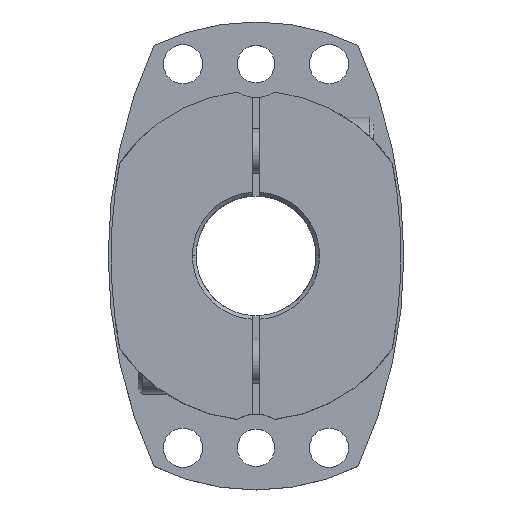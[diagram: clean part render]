
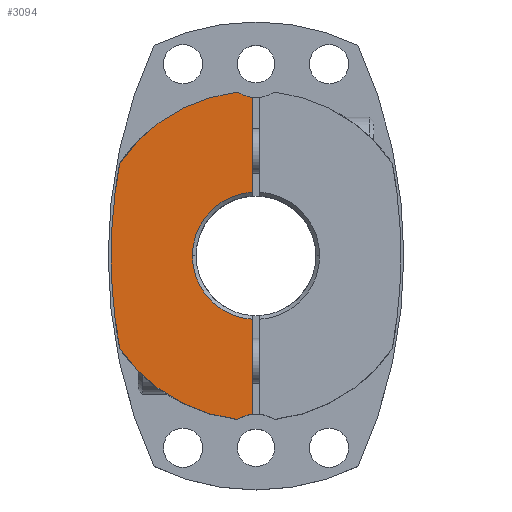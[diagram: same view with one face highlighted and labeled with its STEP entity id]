
A CAD part, top view. The second image highlights one B-rep face of the part: STEP entity #3094.
In plain terms, the highlighted planar face has unit normal (0, 0, 1).
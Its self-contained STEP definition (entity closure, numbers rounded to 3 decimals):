
#412=CARTESIAN_POINT('',(-17.,0.,36.0));
#413=VERTEX_POINT('',#412);
#421=CARTESIAN_POINT('',(-1.,16.971,36.0));
#422=VERTEX_POINT('',#421);
#436=CARTESIAN_POINT('',(0.,0.,36.0));
#437=DIRECTION('',(0.0,0.0,1.0));
#438=DIRECTION('',(-1.0,0.0,0.0));
#439=AXIS2_PLACEMENT_3D('',#436,#437,#438);
#440=CIRCLE('',#439,17.0);
#441=EDGE_CURVE('',#422,#413,#440,.T.);
#451=CARTESIAN_POINT('',(-38.7,0.,36.0));
#452=VERTEX_POINT('',#451);
#461=CARTESIAN_POINT('',(-36.405,24.712,36.0));
#462=VERTEX_POINT('',#461);
#463=CARTESIAN_POINT('',(95.5,0.,36.0));
#464=DIRECTION('',(0.0,0.0,-1.0));
#465=DIRECTION('',(1.0,0.0,0.0));
#466=AXIS2_PLACEMENT_3D('',#463,#464,#465);
#467=CIRCLE('',#466,134.2);
#468=EDGE_CURVE('',#452,#462,#467,.T.);
#2005=CARTESIAN_POINT('',(-4.933,-43.723,36.0));
#2006=VERTEX_POINT('',#2005);
#2013=CARTESIAN_POINT('',(-36.405,-24.712,36.0));
#2014=VERTEX_POINT('',#2013);
#2015=CARTESIAN_POINT('',(0.,0.,36.0));
#2016=DIRECTION('',(0.0,0.0,-1.0));
#2017=DIRECTION('',(1.0,0.0,0.0));
#2018=AXIS2_PLACEMENT_3D('',#2015,#2016,#2017);
#2019=CIRCLE('',#2018,44.);
#2020=EDGE_CURVE('',#2006,#2014,#2019,.T.);
#2654=CARTESIAN_POINT('',(95.5,0.,36.0));
#2655=DIRECTION('',(0.0,0.0,-1.0));
#2656=DIRECTION('',(1.0,0.0,0.0));
#2657=AXIS2_PLACEMENT_3D('',#2654,#2655,#2656);
#2658=CIRCLE('',#2657,134.2);
#2659=EDGE_CURVE('',#2014,#452,#2658,.T.);
#2704=CARTESIAN_POINT('',(-1.,42.306,36.0));
#2705=VERTEX_POINT('',#2704);
#2721=CARTESIAN_POINT('',(-4.933,43.723,36.0));
#2722=VERTEX_POINT('',#2721);
#2729=CARTESIAN_POINT('',(0.,51.25,36.0));
#2730=DIRECTION('',(0.0,0.0,-1.0));
#2731=DIRECTION('',(1.0,0.0,0.0));
#2732=AXIS2_PLACEMENT_3D('',#2729,#2730,#2731);
#2733=CIRCLE('',#2732,9.0);
#2734=EDGE_CURVE('',#2705,#2722,#2733,.T.);
#2796=CARTESIAN_POINT('',(-1.,-42.306,36.0));
#2797=VERTEX_POINT('',#2796);
#2804=CARTESIAN_POINT('',(0.,-51.25,36.0));
#2805=DIRECTION('',(0.0,0.0,-1.0));
#2806=DIRECTION('',(1.0,0.0,0.0));
#2807=AXIS2_PLACEMENT_3D('',#2804,#2805,#2806);
#2808=CIRCLE('',#2807,9.0);
#2809=EDGE_CURVE('',#2006,#2797,#2808,.T.);
#2928=CARTESIAN_POINT('',(-1.,16.971,36.0));
#2929=DIRECTION('',(0.0,1.0,0.0));
#2930=VECTOR('',#2929,25.335);
#2931=LINE('',#2928,#2930);
#2932=EDGE_CURVE('',#422,#2705,#2931,.T.);
#3058=CARTESIAN_POINT('',(0.,0.,36.0));
#3059=DIRECTION('',(0.0,0.0,1.0));
#3060=DIRECTION('',(1.0,0.0,0.0));
#3061=AXIS2_PLACEMENT_3D('',#3058,#3059,#3060);
#3062=PLANE('',#3061);
#3063=ORIENTED_EDGE('',*,*,#2734,.T.);
#3064=CARTESIAN_POINT('',(0.,0.,36.0));
#3065=DIRECTION('',(0.0,0.0,-1.0));
#3066=DIRECTION('',(1.0,0.0,0.0));
#3067=AXIS2_PLACEMENT_3D('',#3064,#3065,#3066);
#3068=CIRCLE('',#3067,44.);
#3069=EDGE_CURVE('',#462,#2722,#3068,.T.);
#3070=ORIENTED_EDGE('',*,*,#3069,.F.);
#3071=ORIENTED_EDGE('',*,*,#468,.F.);
#3072=ORIENTED_EDGE('',*,*,#2659,.F.);
#3073=ORIENTED_EDGE('',*,*,#2020,.F.);
#3074=ORIENTED_EDGE('',*,*,#2809,.T.);
#3075=CARTESIAN_POINT('',(-1.,-16.971,36.0));
#3076=VERTEX_POINT('',#3075);
#3077=CARTESIAN_POINT('',(-1.,-42.306,36.0));
#3078=DIRECTION('',(0.0,1.0,0.0));
#3079=VECTOR('',#3078,25.335);
#3080=LINE('',#3077,#3079);
#3081=EDGE_CURVE('',#2797,#3076,#3080,.T.);
#3082=ORIENTED_EDGE('',*,*,#3081,.T.);
#3083=CARTESIAN_POINT('',(0.,0.,36.0));
#3084=DIRECTION('',(0.0,0.0,1.0));
#3085=DIRECTION('',(-1.0,0.0,0.0));
#3086=AXIS2_PLACEMENT_3D('',#3083,#3084,#3085);
#3087=CIRCLE('',#3086,17.0);
#3088=EDGE_CURVE('',#413,#3076,#3087,.T.);
#3089=ORIENTED_EDGE('',*,*,#3088,.F.);
#3090=ORIENTED_EDGE('',*,*,#441,.F.);
#3091=ORIENTED_EDGE('',*,*,#2932,.T.);
#3092=EDGE_LOOP('',(#3063,#3070,#3071,#3072,#3073,#3074,#3082,#3089,#3090,#3091));
#3093=FACE_OUTER_BOUND('',#3092,.T.);
#3094=ADVANCED_FACE('',(#3093),#3062,.T.);
